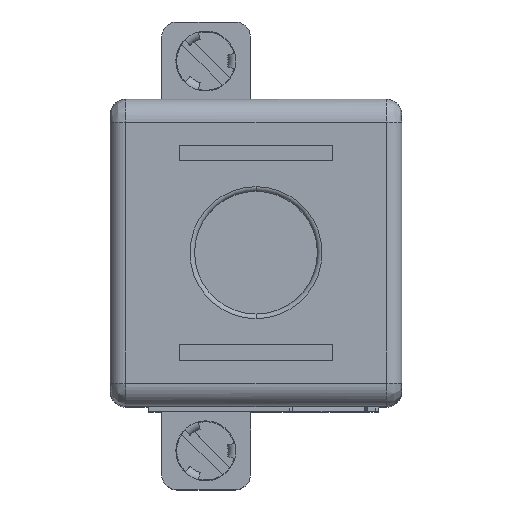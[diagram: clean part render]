
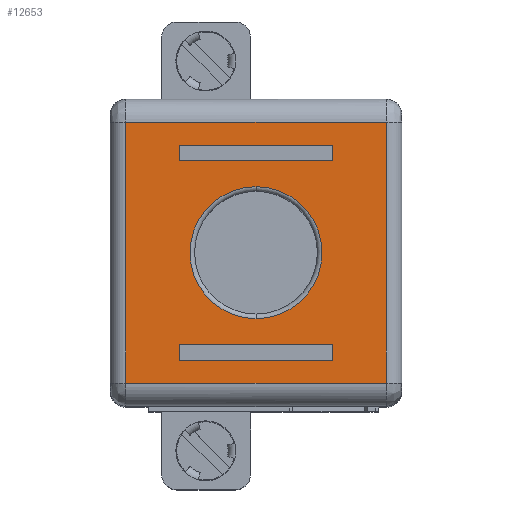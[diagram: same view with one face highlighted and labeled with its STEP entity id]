
A CAD part, top view. The second image highlights one B-rep face of the part: STEP entity #12653.
In plain terms, the highlighted planar face has unit normal (0, 0, 1).
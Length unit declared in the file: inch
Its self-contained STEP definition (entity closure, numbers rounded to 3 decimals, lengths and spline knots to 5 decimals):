
#1802=DIRECTION('',(1.,0.,0.));
#1803=VECTOR('',#1802,0.66929);
#1804=CARTESIAN_POINT('',(-0.28654,-0.47356,
4.27173));
#1805=LINE('',#1804,#1803);
#2134=DIRECTION('',(-1.,0.,0.));
#2135=VECTOR('',#2134,0.66929);
#2136=CARTESIAN_POINT('',(0.38275,-1.14285,
4.27173));
#2137=LINE('',#2136,#2135);
#2282=DIRECTION('',(0.,1.,0.));
#2283=VECTOR('',#2282,0.66929);
#2284=CARTESIAN_POINT('',(-0.28654,-1.14285,
4.27173));
#2285=LINE('',#2284,#2283);
#2286=CARTESIAN_POINT('',(0.0481,-0.8082,
4.27173));
#2287=DIRECTION('',(0.,0.,-1.));
#2288=DIRECTION('',(0.,-1.,0.));
#2289=AXIS2_PLACEMENT_3D('',#2286,#2287,#2288);
#2291=CARTESIAN_POINT('',(0.0481,-0.8082,
4.27173));
#2292=DIRECTION('',(0.,0.,-1.));
#2293=DIRECTION('',(0.,1.,0.));
#2294=AXIS2_PLACEMENT_3D('',#2291,#2292,#2293);
#2300=DIRECTION('',(0.,-1.,0.));
#2301=VECTOR('',#2300,0.66929);
#2302=CARTESIAN_POINT('',(0.38275,-0.47356,
4.27173));
#2303=LINE('',#2302,#2301);
#2304=DIRECTION('',(-1.,0.,0.));
#2305=VECTOR('',#2304,0.3937);
#2306=CARTESIAN_POINT('',(0.24495,-1.04442,
4.27173));
#2307=LINE('',#2306,#2305);
#2316=DIRECTION('',(0.,1.,0.));
#2317=VECTOR('',#2316,0.03937);
#2318=CARTESIAN_POINT('',(0.24495,-1.08379,
4.27173));
#2319=LINE('',#2318,#2317);
#2328=DIRECTION('',(1.,0.,0.));
#2329=VECTOR('',#2328,0.3937);
#2330=CARTESIAN_POINT('',(-0.14875,-1.08379,
4.27173));
#2331=LINE('',#2330,#2329);
#2344=DIRECTION('',(0.,-1.,0.));
#2345=VECTOR('',#2344,0.03937);
#2346=CARTESIAN_POINT('',(-0.14875,-1.04442,
4.27173));
#2347=LINE('',#2346,#2345);
#2408=DIRECTION('',(1.,0.,0.));
#2409=VECTOR('',#2408,0.3937);
#2410=CARTESIAN_POINT('',(-0.14875,-0.57198,
4.27173));
#2411=LINE('',#2410,#2409);
#2420=DIRECTION('',(0.,-1.,0.));
#2421=VECTOR('',#2420,0.03937);
#2422=CARTESIAN_POINT('',(-0.14875,-0.53261,
4.27173));
#2423=LINE('',#2422,#2421);
#2432=DIRECTION('',(-1.,0.,0.));
#2433=VECTOR('',#2432,0.3937);
#2434=CARTESIAN_POINT('',(0.24495,-0.53261,
4.27173));
#2435=LINE('',#2434,#2433);
#2448=DIRECTION('',(0.,1.,0.));
#2449=VECTOR('',#2448,0.03937);
#2450=CARTESIAN_POINT('',(0.24495,-0.57198,
4.27173));
#2451=LINE('',#2450,#2449);
#8303=CARTESIAN_POINT('',(-0.14875,-1.08379,
4.27173));
#8305=VERTEX_POINT('',#8303);
#8306=CARTESIAN_POINT('',(-0.14875,-1.04442,
4.27173));
#8307=VERTEX_POINT('',#8306);
#8324=CARTESIAN_POINT('',(0.24495,-0.53261,
4.27173));
#8325=CARTESIAN_POINT('',(-0.14875,-0.53261,
4.27173));
#8326=VERTEX_POINT('',#8324);
#8327=VERTEX_POINT('',#8325);
#8332=CARTESIAN_POINT('',(0.38275,-1.14285,
4.27173));
#8333=CARTESIAN_POINT('',(-0.28654,-1.14285,
4.27173));
#8334=VERTEX_POINT('',#8332);
#8335=VERTEX_POINT('',#8333);
#8504=CARTESIAN_POINT('',(-0.28654,-0.47356,
4.27173));
#8505=CARTESIAN_POINT('',(0.38275,-0.47356,
4.27173));
#8506=VERTEX_POINT('',#8504);
#8507=VERTEX_POINT('',#8505);
#9483=CARTESIAN_POINT('',(-0.14875,-0.57198,
4.27173));
#9485=VERTEX_POINT('',#9483);
#9488=CARTESIAN_POINT('',(0.24495,-0.57198,
4.27173));
#9489=VERTEX_POINT('',#9488);
#9490=CARTESIAN_POINT('',(0.24495,-1.08379,
4.27173));
#9491=VERTEX_POINT('',#9490);
#9496=CARTESIAN_POINT('',(0.24495,-1.04442,
4.27173));
#9497=VERTEX_POINT('',#9496);
#9498=CARTESIAN_POINT('',(0.0481,-0.63891,
4.27173));
#9499=CARTESIAN_POINT('',(0.0481,-0.97749,
4.27173));
#9500=VERTEX_POINT('',#9498);
#9501=VERTEX_POINT('',#9499);
#12615=CARTESIAN_POINT('',(0.14467,-0.73782,
4.27173));
#12616=DIRECTION('',(0.,0.,1.));
#12617=DIRECTION('',(1.,0.,0.));
#12618=AXIS2_PLACEMENT_3D('',#12615,#12616,#12617);
#12619=PLANE('',#12618);
#12621=ORIENTED_EDGE('',*,*,#12620,.T.);
#12622=ORIENTED_EDGE('',*,*,#12386,.T.);
#12623=ORIENTED_EDGE('',*,*,#12609,.T.);
#12624=ORIENTED_EDGE('',*,*,#11812,.T.);
#12625=EDGE_LOOP('',(#12621,#12622,#12623,#12624));
#12626=FACE_OUTER_BOUND('',#12625,.F.);
#12628=ORIENTED_EDGE('',*,*,#12627,.T.);
#12630=ORIENTED_EDGE('',*,*,#12629,.T.);
#12632=ORIENTED_EDGE('',*,*,#12631,.T.);
#12634=ORIENTED_EDGE('',*,*,#12633,.T.);
#12635=EDGE_LOOP('',(#12628,#12630,#12632,#12634));
#12636=FACE_BOUND('',#12635,.F.);
#12638=ORIENTED_EDGE('',*,*,#12637,.F.);
#12640=ORIENTED_EDGE('',*,*,#12639,.F.);
#12641=EDGE_LOOP('',(#12638,#12640));
#12642=FACE_BOUND('',#12641,.F.);
#12644=ORIENTED_EDGE('',*,*,#12643,.T.);
#12646=ORIENTED_EDGE('',*,*,#12645,.T.);
#12648=ORIENTED_EDGE('',*,*,#12647,.T.);
#12650=ORIENTED_EDGE('',*,*,#12649,.T.);
#12651=EDGE_LOOP('',(#12644,#12646,#12648,#12650));
#12652=FACE_BOUND('',#12651,.F.);
#12653=ADVANCED_FACE('',(#12626,#12636,#12642,#12652),#12619,.T.);
#2290=CIRCLE('',#2289,0.16929);
#2295=CIRCLE('',#2294,0.16929);
#11812=EDGE_CURVE('',#8506,#8507,#1805,.T.);
#12386=EDGE_CURVE('',#8334,#8335,#2137,.T.);
#12609=EDGE_CURVE('',#8335,#8506,#2285,.T.);
#12620=EDGE_CURVE('',#8507,#8334,#2303,.T.);
#12627=EDGE_CURVE('',#9497,#8307,#2307,.T.);
#12629=EDGE_CURVE('',#8307,#8305,#2347,.T.);
#12631=EDGE_CURVE('',#8305,#9491,#2331,.T.);
#12633=EDGE_CURVE('',#9491,#9497,#2319,.T.);
#12637=EDGE_CURVE('',#9501,#9500,#2290,.T.);
#12639=EDGE_CURVE('',#9500,#9501,#2295,.T.);
#12643=EDGE_CURVE('',#9485,#9489,#2411,.T.);
#12645=EDGE_CURVE('',#9489,#8326,#2451,.T.);
#12647=EDGE_CURVE('',#8326,#8327,#2435,.T.);
#12649=EDGE_CURVE('',#8327,#9485,#2423,.T.);
